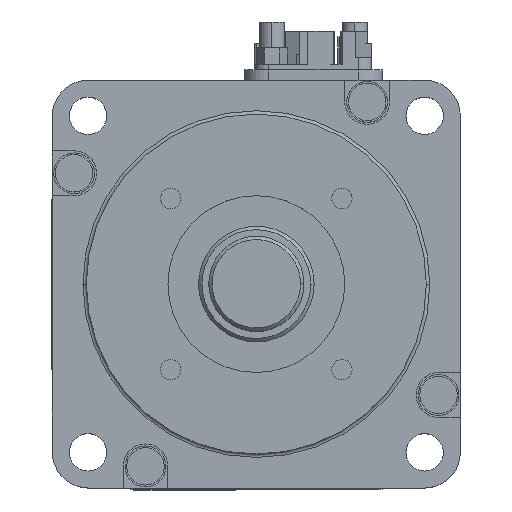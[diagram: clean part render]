
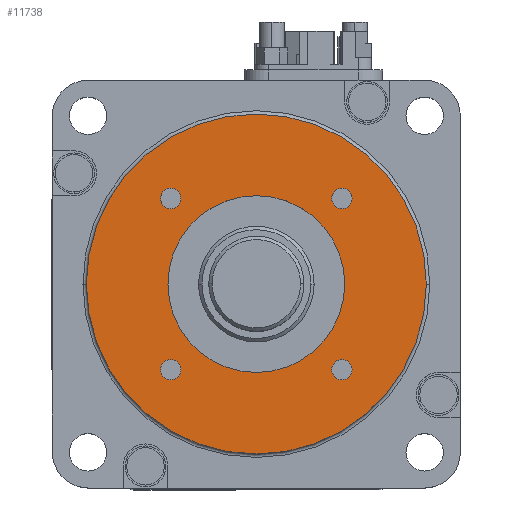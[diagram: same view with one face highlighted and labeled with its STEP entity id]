
A CAD part, top view. The second image highlights one B-rep face of the part: STEP entity #11738.
In plain terms, the highlighted planar face has unit normal (0, 0, 1).
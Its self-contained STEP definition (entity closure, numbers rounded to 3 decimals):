
#183 = DIRECTION ( 'NONE',  ( 1., 0., 0. ) ) ;
#257 = CIRCLE ( 'NONE', #13696, 1.5 ) ;
#461 = AXIS2_PLACEMENT_3D ( 'NONE', #2098, #9538, #183 ) ;
#642 = EDGE_CURVE ( 'NONE', #21304, #8195, #23521, .T. ) ;
#700 = VERTEX_POINT ( 'NONE', #7580 ) ;
#772 = CARTESIAN_POINT ( 'NONE',  ( -12.587, 12.587, 3. ) ) ;
#875 = DIRECTION ( 'NONE',  ( 0., 0., 1. ) ) ;
#1078 = ORIENTED_EDGE ( 'NONE', *, *, #10485, .F. ) ;
#1311 = CARTESIAN_POINT ( 'NONE',  ( -12.587, -12.587, 3. ) ) ;
#1365 = CARTESIAN_POINT ( 'NONE',  ( 0., 0., 3. ) ) ;
#1491 = DIRECTION ( 'NONE',  ( 1., 0., 0. ) ) ;
#2098 = CARTESIAN_POINT ( 'NONE',  ( 12.587, -12.587, 3. ) ) ;
#2123 = EDGE_CURVE ( 'NONE', #700, #11445, #20943, .T. ) ;
#2137 = ORIENTED_EDGE ( 'NONE', *, *, #13792, .F. ) ;
#2333 = CARTESIAN_POINT ( 'NONE',  ( -14.087, 12.587, 3. ) ) ;
#2569 = DIRECTION ( 'NONE',  ( 0., 0., 1. ) ) ;
#2611 = CARTESIAN_POINT ( 'NONE',  ( 0., 0., 3. ) ) ;
#2817 = DIRECTION ( 'NONE',  ( 0., 0., 1. ) ) ;
#2841 = EDGE_LOOP ( 'NONE', ( #21707, #17292 ) ) ;
#3051 = DIRECTION ( 'NONE',  ( 1., 0., 0. ) ) ;
#3141 = PLANE ( 'NONE',  #23892 ) ;
#3168 = DIRECTION ( 'NONE',  ( 0., 0., 1. ) ) ;
#3543 = AXIS2_PLACEMENT_3D ( 'NONE', #6518, #2817, #14085 ) ;
#3868 = CARTESIAN_POINT ( 'NONE',  ( 11.087, -12.587, 3. ) ) ;
#3936 = CARTESIAN_POINT ( 'NONE',  ( -13., 0., 3. ) ) ;
#4306 = ORIENTED_EDGE ( 'NONE', *, *, #9945, .F. ) ;
#4418 = AXIS2_PLACEMENT_3D ( 'NONE', #4557, #875, #12101 ) ;
#4557 = CARTESIAN_POINT ( 'NONE',  ( 0., 0., 3. ) ) ;
#4650 = CARTESIAN_POINT ( 'NONE',  ( 0., 0., 3. ) ) ;
#4720 = CIRCLE ( 'NONE', #17077, 1.5 ) ;
#4791 = CARTESIAN_POINT ( 'NONE',  ( 12.587, 12.587, 3. ) ) ;
#5078 = DIRECTION ( 'NONE',  ( 1., 0., 0. ) ) ;
#5110 = VERTEX_POINT ( 'NONE', #2333 ) ;
#5149 = CARTESIAN_POINT ( 'NONE',  ( 13., 0., 3. ) ) ;
#5250 = CIRCLE ( 'NONE', #8360, 1.5 ) ;
#5814 = VERTEX_POINT ( 'NONE', #5149 ) ;
#6518 = CARTESIAN_POINT ( 'NONE',  ( 12.587, -12.587, 3. ) ) ;
#7461 = ORIENTED_EDGE ( 'NONE', *, *, #11408, .F. ) ;
#7580 = CARTESIAN_POINT ( 'NONE',  ( -11.087, -12.587, 3. ) ) ;
#7681 = VERTEX_POINT ( 'NONE', #3936 ) ;
#7786 = CIRCLE ( 'NONE', #17479, 25. ) ;
#7916 = EDGE_LOOP ( 'NONE', ( #1078, #13467 ) ) ;
#8026 = DIRECTION ( 'NONE',  ( 1., 0., 0. ) ) ;
#8195 = VERTEX_POINT ( 'NONE', #22297 ) ;
#8327 = DIRECTION ( 'NONE',  ( 1., 0., 0. ) ) ;
#8360 = AXIS2_PLACEMENT_3D ( 'NONE', #772, #11786, #8026 ) ;
#8396 = CARTESIAN_POINT ( 'NONE',  ( -12.587, 12.587, 3. ) ) ;
#9150 = AXIS2_PLACEMENT_3D ( 'NONE', #4791, #12117, #15831 ) ;
#9282 = CIRCLE ( 'NONE', #9150, 1.5 ) ;
#9307 = CARTESIAN_POINT ( 'NONE',  ( 14.087, 12.587, 3. ) ) ;
#9313 = EDGE_CURVE ( 'NONE', #16072, #13788, #13243, .T. ) ;
#9538 = DIRECTION ( 'NONE',  ( 0., 0., 1. ) ) ;
#9909 = ORIENTED_EDGE ( 'NONE', *, *, #2123, .F. ) ;
#9945 = EDGE_CURVE ( 'NONE', #13960, #18419, #257, .T. ) ;
#10311 = CARTESIAN_POINT ( 'NONE',  ( -25., 0., 3. ) ) ;
#10485 = EDGE_CURVE ( 'NONE', #5814, #7681, #11977, .T. ) ;
#10762 = CARTESIAN_POINT ( 'NONE',  ( 11.087, 12.587, 3. ) ) ;
#11131 = EDGE_LOOP ( 'NONE', ( #19303, #4306 ) ) ;
#11286 = DIRECTION ( 'NONE',  ( 0., 0., 1. ) ) ;
#11408 = EDGE_CURVE ( 'NONE', #20309, #5110, #5250, .T. ) ;
#11445 = VERTEX_POINT ( 'NONE', #11624 ) ;
#11624 = CARTESIAN_POINT ( 'NONE',  ( -14.087, -12.587, 3. ) ) ;
#11716 = DIRECTION ( 'NONE',  ( 0., 0., 1. ) ) ;
#11738 = ADVANCED_FACE ( 'NONE', ( #21462, #23223, #23804, #13320, #19116, #17644 ), #3141, .T. ) ;
#11786 = DIRECTION ( 'NONE',  ( 0., 0., 1. ) ) ;
#11892 = CARTESIAN_POINT ( 'NONE',  ( -11.087, 12.587, 3. ) ) ;
#11977 = CIRCLE ( 'NONE', #16007, 13. ) ;
#12101 = DIRECTION ( 'NONE',  ( 1., 0., 0. ) ) ;
#12117 = DIRECTION ( 'NONE',  ( 0., 0., 1. ) ) ;
#12215 = DIRECTION ( 'NONE',  ( 0., 0., 1. ) ) ;
#12467 = EDGE_CURVE ( 'NONE', #13788, #16072, #7786, .T. ) ;
#13243 = CIRCLE ( 'NONE', #4418, 25. ) ;
#13320 = FACE_BOUND ( 'NONE', #11131, .T. ) ;
#13467 = ORIENTED_EDGE ( 'NONE', *, *, #20694, .F. ) ;
#13696 = AXIS2_PLACEMENT_3D ( 'NONE', #15792, #15711, #3051 ) ;
#13788 = VERTEX_POINT ( 'NONE', #10311 ) ;
#13792 = EDGE_CURVE ( 'NONE', #5110, #20309, #4720, .T. ) ;
#13960 = VERTEX_POINT ( 'NONE', #10762 ) ;
#14085 = DIRECTION ( 'NONE',  ( 1., 0., 0. ) ) ;
#14559 = CARTESIAN_POINT ( 'NONE',  ( 25., 0., 3. ) ) ;
#14562 = DIRECTION ( 'NONE',  ( 0., 0., 1. ) ) ;
#15517 = CIRCLE ( 'NONE', #19729, 1.5 ) ;
#15676 = EDGE_LOOP ( 'NONE', ( #9909, #18274 ) ) ;
#15711 = DIRECTION ( 'NONE',  ( 0., 0., 1. ) ) ;
#15792 = CARTESIAN_POINT ( 'NONE',  ( 12.587, 12.587, 3. ) ) ;
#15831 = DIRECTION ( 'NONE',  ( 1., 0., 0. ) ) ;
#15925 = AXIS2_PLACEMENT_3D ( 'NONE', #2611, #11716, #22947 ) ;
#16007 = AXIS2_PLACEMENT_3D ( 'NONE', #4650, #2569, #21191 ) ;
#16072 = VERTEX_POINT ( 'NONE', #14559 ) ;
#16642 = EDGE_CURVE ( 'NONE', #11445, #700, #15517, .T. ) ;
#16789 = CARTESIAN_POINT ( 'NONE',  ( -12.587, -12.587, 3. ) ) ;
#17077 = AXIS2_PLACEMENT_3D ( 'NONE', #8396, #12215, #8327 ) ;
#17292 = ORIENTED_EDGE ( 'NONE', *, *, #9313, .T. ) ;
#17330 = EDGE_LOOP ( 'NONE', ( #7461, #2137 ) ) ;
#17479 = AXIS2_PLACEMENT_3D ( 'NONE', #19848, #14562, #1491 ) ;
#17644 = FACE_OUTER_BOUND ( 'NONE', #2841, .T. ) ;
#18274 = ORIENTED_EDGE ( 'NONE', *, *, #16642, .F. ) ;
#18419 = VERTEX_POINT ( 'NONE', #9307 ) ;
#19116 = FACE_BOUND ( 'NONE', #7916, .T. ) ;
#19303 = ORIENTED_EDGE ( 'NONE', *, *, #20338, .F. ) ;
#19381 = AXIS2_PLACEMENT_3D ( 'NONE', #1311, #3168, #21323 ) ;
#19729 = AXIS2_PLACEMENT_3D ( 'NONE', #16789, #11286, #20654 ) ;
#19848 = CARTESIAN_POINT ( 'NONE',  ( 0., 0., 3. ) ) ;
#20038 = CIRCLE ( 'NONE', #3543, 1.5 ) ;
#20041 = DIRECTION ( 'NONE',  ( 0., 0., 1. ) ) ;
#20309 = VERTEX_POINT ( 'NONE', #11892 ) ;
#20338 = EDGE_CURVE ( 'NONE', #18419, #13960, #9282, .T. ) ;
#20654 = DIRECTION ( 'NONE',  ( 1., 0., 0. ) ) ;
#20694 = EDGE_CURVE ( 'NONE', #7681, #5814, #22886, .T. ) ;
#20943 = CIRCLE ( 'NONE', #19381, 1.5 ) ;
#21191 = DIRECTION ( 'NONE',  ( 1., 0., 0. ) ) ;
#21304 = VERTEX_POINT ( 'NONE', #3868 ) ;
#21323 = DIRECTION ( 'NONE',  ( 1., 0., 0. ) ) ;
#21462 = FACE_BOUND ( 'NONE', #23387, .T. ) ;
#21615 = ORIENTED_EDGE ( 'NONE', *, *, #642, .F. ) ;
#21707 = ORIENTED_EDGE ( 'NONE', *, *, #12467, .T. ) ;
#22242 = EDGE_CURVE ( 'NONE', #8195, #21304, #20038, .T. ) ;
#22297 = CARTESIAN_POINT ( 'NONE',  ( 14.087, -12.587, 3. ) ) ;
#22594 = ORIENTED_EDGE ( 'NONE', *, *, #22242, .F. ) ;
#22886 = CIRCLE ( 'NONE', #15925, 13. ) ;
#22947 = DIRECTION ( 'NONE',  ( 1., 0., 0. ) ) ;
#23223 = FACE_BOUND ( 'NONE', #15676, .T. ) ;
#23387 = EDGE_LOOP ( 'NONE', ( #22594, #21615 ) ) ;
#23521 = CIRCLE ( 'NONE', #461, 1.5 ) ;
#23804 = FACE_BOUND ( 'NONE', #17330, .T. ) ;
#23892 = AXIS2_PLACEMENT_3D ( 'NONE', #1365, #20041, #5078 ) ;
